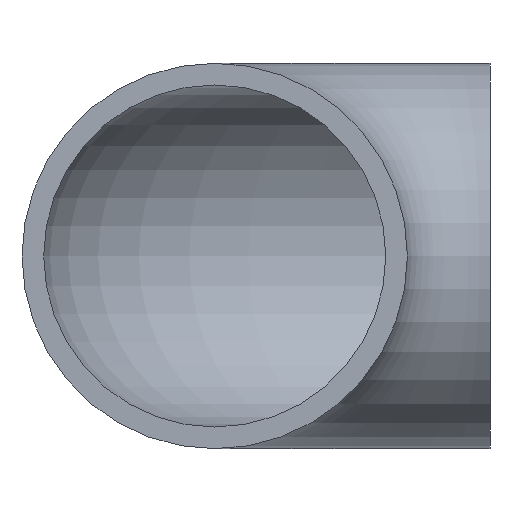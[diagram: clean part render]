
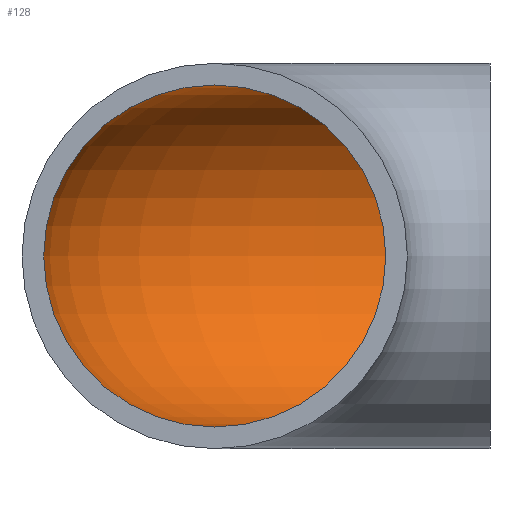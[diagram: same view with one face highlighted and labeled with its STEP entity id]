
A CAD part, front view. The second image highlights one B-rep face of the part: STEP entity #128.
In plain terms, the highlighted toroidal (fillet/blend) face has major radius 40 mm and minor radius 24.85 mm.
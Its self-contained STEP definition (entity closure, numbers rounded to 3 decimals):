
#12=TOROIDAL_SURFACE($,#146,40.,24.85);
#23=FACE_BOUND($,#50,.T.);
#37=FACE_OUTER_BOUND($,#49,.T.);
#49=EDGE_LOOP($,(#98));
#50=EDGE_LOOP($,(#99));
#65=CIRCLE($,#147,24.85);
#66=CIRCLE($,#148,24.85);
#75=VERTEX_POINT($,#257);
#76=VERTEX_POINT($,#259);
#85=EDGE_CURVE($,#75,#75,#65,.T.);
#86=EDGE_CURVE($,#76,#76,#66,.T.);
#98=ORIENTED_EDGE($,*,*,#85,.T.);
#99=ORIENTED_EDGE($,*,*,#86,.F.);
#128=ADVANCED_FACE($,(#37,#23),#12,.F.);
#146=AXIS2_PLACEMENT_3D($,#256,#177,#178);
#147=AXIS2_PLACEMENT_3D($,#258,#179,#180);
#148=AXIS2_PLACEMENT_3D($,#260,#181,#182);
#177=DIRECTION('center_axis',(0.,0.,-1.));
#178=DIRECTION('ref_axis',(-1.,0.,0.));
#179=DIRECTION('center_axis',(0.,-1.,0.));
#180=DIRECTION('ref_axis',(1.,0.,0.));
#181=DIRECTION('center_axis',(-1.,0.,0.));
#182=DIRECTION('ref_axis',(0.,1.,0.));
#256=CARTESIAN_POINT('Origin',(40.,170.,0.));
#257=CARTESIAN_POINT('',(-24.85,170.,0.));
#258=CARTESIAN_POINT('Origin',(0.,170.,0.));
#259=CARTESIAN_POINT('',(40.,234.85,0.));
#260=CARTESIAN_POINT('Origin',(40.,210.,0.));
